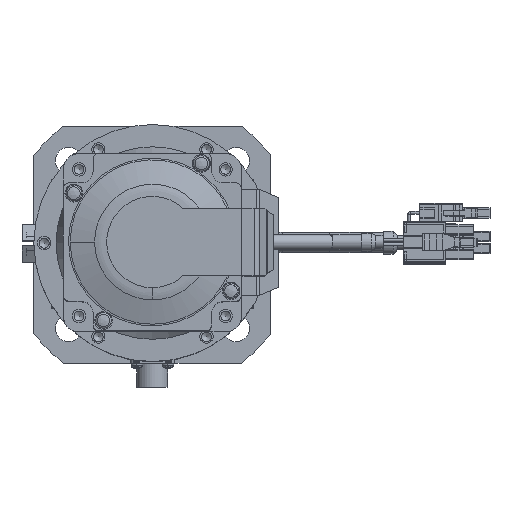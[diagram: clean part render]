
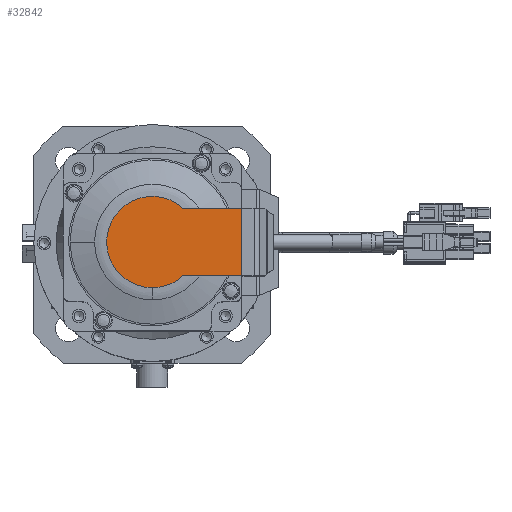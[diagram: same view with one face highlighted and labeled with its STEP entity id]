
A CAD part, top view. The second image highlights one B-rep face of the part: STEP entity #32842.
In plain terms, the highlighted planar face has unit normal (0, 0, 1).
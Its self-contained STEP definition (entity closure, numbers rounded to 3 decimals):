
#24792=CARTESIAN_POINT('',(30.554,11.764,462.5));
#24793=VERTEX_POINT('',#24792);
#24800=CARTESIAN_POINT('',(30.554,-11.136,462.5));
#24801=VERTEX_POINT('',#24800);
#24802=CARTESIAN_POINT('',(30.554,11.764,462.5));
#24803=DIRECTION('',(0.,-1.,0.));
#24804=VECTOR('',#24803,22.9);
#24805=LINE('',#24802,#24804);
#24806=EDGE_CURVE('',#24793,#24801,#24805,.T.);
#25077=CARTESIAN_POINT('',(10.872,-11.136,462.5));
#25078=VERTEX_POINT('',#25077);
#25099=CARTESIAN_POINT('',(30.554,-11.136,462.5));
#25100=DIRECTION('',(-1.,0.,0.));
#25101=VECTOR('',#25100,19.683);
#25102=LINE('',#25099,#25101);
#25103=EDGE_CURVE('',#24801,#25078,#25102,.T.);
#25115=CARTESIAN_POINT('',(10.872,11.764,462.5));
#25116=VERTEX_POINT('',#25115);
#25126=CARTESIAN_POINT('',(10.872,11.764,462.5));
#25127=DIRECTION('',(1.,0.,0.));
#25128=VECTOR('',#25127,19.683);
#25129=LINE('',#25126,#25128);
#25130=EDGE_CURVE('',#25116,#24793,#25129,.T.);
#25150=CARTESIAN_POINT('',(0.554,-15.099,462.5));
#25151=VERTEX_POINT('',#25150);
#25152=CARTESIAN_POINT('',(0.554,0.314,462.5));
#25153=DIRECTION('',(0.669,-0.743,0.));
#25154=DIRECTION('',(0.,0.,-1.));
#25155=AXIS2_PLACEMENT_3D('',#25152,#25154,#25153);
#25156=CIRCLE('',#25155,15.413);
#25157=EDGE_CURVE('',#25078,#25151,#25156,.T.);
#25201=CARTESIAN_POINT('',(0.554,0.314,462.5));
#25202=DIRECTION('',(0.,-1.,0.));
#25203=DIRECTION('',(0.,0.,-1.));
#25204=AXIS2_PLACEMENT_3D('',#25201,#25203,#25202);
#25205=CIRCLE('',#25204,15.413);
#25206=EDGE_CURVE('',#25151,#25116,#25205,.T.);
#32830=CARTESIAN_POINT('',(7.848,0.314,462.5));
#32831=DIRECTION('',(0.,1.,0.));
#32832=DIRECTION('',(0.,-0.,1.));
#32833=AXIS2_PLACEMENT_3D('',#32830,#32832,#32831);
#32834=PLANE('',#32833);
#32835=ORIENTED_EDGE('',*,*,#25206,.F.);
#32836=ORIENTED_EDGE('',*,*,#25157,.F.);
#32837=ORIENTED_EDGE('',*,*,#25103,.F.);
#32838=ORIENTED_EDGE('',*,*,#24806,.F.);
#32839=ORIENTED_EDGE('',*,*,#25130,.F.);
#32840=EDGE_LOOP('',(#32835,#32836,#32837,#32838,#32839));
#32841=FACE_OUTER_BOUND('',#32840,.T.);
#32842=ADVANCED_FACE('F1323',(#32841),#32834,.T.);
